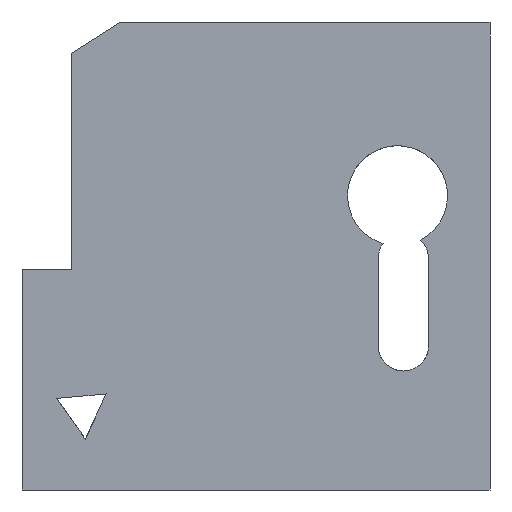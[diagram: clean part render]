
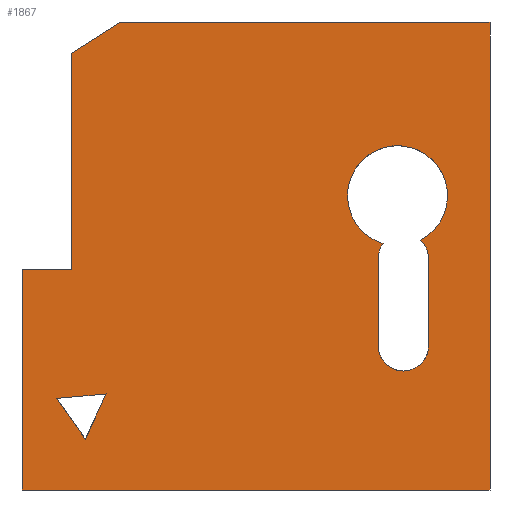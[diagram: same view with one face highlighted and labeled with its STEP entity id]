
A CAD part, front view. The second image highlights one B-rep face of the part: STEP entity #1867.
In plain terms, the highlighted planar face has unit normal (0, -1, 0).
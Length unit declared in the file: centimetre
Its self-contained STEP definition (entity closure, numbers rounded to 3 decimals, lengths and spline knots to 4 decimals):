
#5 = VECTOR ( 'NONE', #268, 100. ) ;
#8 = DIRECTION ( 'NONE',  ( 0., 0., 1. ) ) ;
#51 = EDGE_CURVE ( 'NONE', #1907, #249, #709, .T. ) ;
#56 = CARTESIAN_POINT ( 'NONE',  ( 0., 0., 470.2044 ) ) ;
#57 = DIRECTION ( 'NONE',  ( 0., 0., 1. ) ) ;
#62 = FACE_BOUND ( 'NONE', #2063, .T. ) ;
#63 = VERTEX_POINT ( 'NONE', #2137 ) ;
#66 = DIRECTION ( 'NONE',  ( 0., 0., 1. ) ) ;
#69 = DIRECTION ( 'NONE',  ( 0., 1., 0. ) ) ;
#81 = CARTESIAN_POINT ( 'NONE',  ( 760.9015, 0., 308.1098 ) ) ;
#93 = CARTESIAN_POINT ( 'NONE',  ( 105.0628, 0., 470.2044 ) ) ;
#104 = CARTESIAN_POINT ( 'NONE',  ( 1000., 0., 1000. ) ) ;
#108 = EDGE_CURVE ( 'NONE', #617, #1907, #387, .T. ) ;
#110 = CIRCLE ( 'NONE', #840, 53.9385 ) ;
#145 = LINE ( 'NONE', #844, #2144 ) ;
#148 = AXIS2_PLACEMENT_3D ( 'NONE', #1121, #69, #57 ) ;
#159 = DIRECTION ( 'NONE',  ( 1., 0., 0. ) ) ;
#165 = ORIENTED_EDGE ( 'NONE', *, *, #1364, .T. ) ;
#180 = LINE ( 'NONE', #704, #2088 ) ;
#188 = VECTOR ( 'NONE', #1649, 100. ) ;
#191 = CARTESIAN_POINT ( 'NONE',  ( 814.84, 0., 494.2567 ) ) ;
#212 = DIRECTION ( 'NONE',  ( 0.843, 0., 0.538 ) ) ;
#245 = DIRECTION ( 'NONE',  ( 0., -1., 0. ) ) ;
#249 = VERTEX_POINT ( 'NONE', #779 ) ;
#265 = LINE ( 'NONE', #285, #1067 ) ;
#268 = DIRECTION ( 'NONE',  ( 1., 0., 0. ) ) ;
#285 = CARTESIAN_POINT ( 'NONE',  ( 868.7785, 0., 494.2567 ) ) ;
#300 = ORIENTED_EDGE ( 'NONE', *, *, #1192, .F. ) ;
#303 = ORIENTED_EDGE ( 'NONE', *, *, #51, .F. ) ;
#322 = VERTEX_POINT ( 'NONE', #104 ) ;
#373 = LINE ( 'NONE', #535, #655 ) ;
#387 = LINE ( 'NONE', #1248, #773 ) ;
#407 = CARTESIAN_POINT ( 'NONE',  ( 105.0628, 0., 932.9597 ) ) ;
#419 = LINE ( 'NONE', #632, #1993 ) ;
#438 = EDGE_CURVE ( 'NONE', #322, #1198, #1323, .T. ) ;
#494 = EDGE_LOOP ( 'NONE', ( #1699, #580, #1912, #961, #165, #2112 ) ) ;
#499 = ORIENTED_EDGE ( 'NONE', *, *, #865, .T. ) ;
#522 = VERTEX_POINT ( 'NONE', #56 ) ;
#533 = EDGE_CURVE ( 'NONE', #2266, #1363, #2170, .T. ) ;
#535 = CARTESIAN_POINT ( 'NONE',  ( 74.0076, 0., 195.7149 ) ) ;
#552 = LINE ( 'NONE', #904, #188 ) ;
#580 = ORIENTED_EDGE ( 'NONE', *, *, #1437, .F. ) ;
#594 = FACE_OUTER_BOUND ( 'NONE', #1211, .T. ) ;
#596 = CARTESIAN_POINT ( 'NONE',  ( 760.9015, 0., 494.2567 ) ) ;
#599 = CARTESIAN_POINT ( 'NONE',  ( 868.7785, 0., 494.2567 ) ) ;
#617 = VERTEX_POINT ( 'NONE', #2181 ) ;
#624 = CARTESIAN_POINT ( 'NONE',  ( 179.9313, 0., 205.3036 ) ) ;
#632 = CARTESIAN_POINT ( 'NONE',  ( 0., 0., 0. ) ) ;
#655 = VECTOR ( 'NONE', #2141, 100. ) ;
#666 = CARTESIAN_POINT ( 'NONE',  ( 0., 0., 1000. ) ) ;
#694 = AXIS2_PLACEMENT_3D ( 'NONE', #1280, #1619, #66 ) ;
#701 = VECTOR ( 'NONE', #919, 100. ) ;
#704 = CARTESIAN_POINT ( 'NONE',  ( 0., 0., 865.9195 ) ) ;
#709 = LINE ( 'NONE', #1434, #701 ) ;
#748 = EDGE_CURVE ( 'NONE', #1431, #1044, #265, .T. ) ;
#757 = FACE_BOUND ( 'NONE', #494, .T. ) ;
#765 = LINE ( 'NONE', #93, #5 ) ;
#773 = VECTOR ( 'NONE', #1805, 100. ) ;
#779 = CARTESIAN_POINT ( 'NONE',  ( 74.0076, 0., 195.7149 ) ) ;
#798 = DIRECTION ( 'NONE',  ( 0., 0., -1. ) ) ;
#840 = AXIS2_PLACEMENT_3D ( 'NONE', #191, #1593, #8 ) ;
#844 = CARTESIAN_POINT ( 'NONE',  ( 0., 0., 1000. ) ) ;
#865 = EDGE_CURVE ( 'NONE', #522, #902, #1231, .T. ) ;
#877 = EDGE_CURVE ( 'NONE', #1363, #2034, #110, .T. ) ;
#902 = VERTEX_POINT ( 'NONE', #1570 ) ;
#904 = CARTESIAN_POINT ( 'NONE',  ( 105.0628, 0., 470.2044 ) ) ;
#913 = ORIENTED_EDGE ( 'NONE', *, *, #1080, .F. ) ;
#919 = DIRECTION ( 'NONE',  ( -0.996, 0., -0.09 ) ) ;
#921 = CIRCLE ( 'NONE', #1481, 106.8382 ) ;
#928 = VERTEX_POINT ( 'NONE', #1742 ) ;
#961 = ORIENTED_EDGE ( 'NONE', *, *, #748, .T. ) ;
#1008 = CARTESIAN_POINT ( 'NONE',  ( 771.5386, 0., 526.4179 ) ) ;
#1044 = VERTEX_POINT ( 'NONE', #1206 ) ;
#1067 = VECTOR ( 'NONE', #798, 100. ) ;
#1080 = EDGE_CURVE ( 'NONE', #249, #617, #373, .T. ) ;
#1085 = DIRECTION ( 'NONE',  ( 0., 0., 1. ) ) ;
#1106 = CARTESIAN_POINT ( 'NONE',  ( 802.4391, 0., 628.6899 ) ) ;
#1112 = ORIENTED_EDGE ( 'NONE', *, *, #1935, .T. ) ;
#1121 = CARTESIAN_POINT ( 'NONE',  ( 814.84, 0., 494.2567 ) ) ;
#1147 = CIRCLE ( 'NONE', #148, 53.9385 ) ;
#1181 = CIRCLE ( 'NONE', #694, 53.9385 ) ;
#1192 = EDGE_CURVE ( 'NONE', #1477, #1256, #552, .T. ) ;
#1198 = VERTEX_POINT ( 'NONE', #2146 ) ;
#1206 = CARTESIAN_POINT ( 'NONE',  ( 868.7785, 0., 308.1098 ) ) ;
#1211 = EDGE_LOOP ( 'NONE', ( #1396, #300, #1500, #499, #1112, #2283, #1887 ) ) ;
#1231 = LINE ( 'NONE', #666, #1332 ) ;
#1248 = CARTESIAN_POINT ( 'NONE',  ( 135.2735, 0., 108.7766 ) ) ;
#1256 = VERTEX_POINT ( 'NONE', #407 ) ;
#1280 = CARTESIAN_POINT ( 'NONE',  ( 814.84, 0., 308.1098 ) ) ;
#1320 = CARTESIAN_POINT ( 'NONE',  ( 105.0628, 0., 470.2044 ) ) ;
#1323 = LINE ( 'NONE', #1842, #2244 ) ;
#1332 = VECTOR ( 'NONE', #1394, 100. ) ;
#1342 = DIRECTION ( 'NONE',  ( 1., 0., 0. ) ) ;
#1363 = VERTEX_POINT ( 'NONE', #596 ) ;
#1364 = EDGE_CURVE ( 'NONE', #1044, #2266, #1181, .T. ) ;
#1394 = DIRECTION ( 'NONE',  ( 0., 0., -1. ) ) ;
#1396 = ORIENTED_EDGE ( 'NONE', *, *, #2208, .F. ) ;
#1416 = ORIENTED_EDGE ( 'NONE', *, *, #108, .F. ) ;
#1419 = CARTESIAN_POINT ( 'NONE',  ( 760.9015, 0., 308.1098 ) ) ;
#1431 = VERTEX_POINT ( 'NONE', #599 ) ;
#1434 = CARTESIAN_POINT ( 'NONE',  ( 179.9313, 0., 205.3036 ) ) ;
#1436 = EDGE_CURVE ( 'NONE', #928, #1431, #1147, .T. ) ;
#1437 = EDGE_CURVE ( 'NONE', #928, #2034, #921, .T. ) ;
#1447 = AXIS2_PLACEMENT_3D ( 'NONE', #2176, #2016, #1085 ) ;
#1476 = PLANE ( 'NONE',  #1447 ) ;
#1477 = VERTEX_POINT ( 'NONE', #1320 ) ;
#1481 = AXIS2_PLACEMENT_3D ( 'NONE', #1106, #245, #1827 ) ;
#1497 = EDGE_CURVE ( 'NONE', #522, #1477, #765, .T. ) ;
#1500 = ORIENTED_EDGE ( 'NONE', *, *, #1497, .F. ) ;
#1530 = DIRECTION ( 'NONE',  ( 0., 0., -1. ) ) ;
#1570 = CARTESIAN_POINT ( 'NONE',  ( 0., 0., 0. ) ) ;
#1593 = DIRECTION ( 'NONE',  ( 0., 1., 0. ) ) ;
#1619 = DIRECTION ( 'NONE',  ( 0., 1., 0. ) ) ;
#1641 = DIRECTION ( 'NONE',  ( 0., 0., 1. ) ) ;
#1649 = DIRECTION ( 'NONE',  ( 0., 0., 1. ) ) ;
#1695 = VECTOR ( 'NONE', #1641, 100. ) ;
#1699 = ORIENTED_EDGE ( 'NONE', *, *, #877, .T. ) ;
#1742 = CARTESIAN_POINT ( 'NONE',  ( 851.5273, 0., 533.7965 ) ) ;
#1805 = DIRECTION ( 'NONE',  ( 0.42, 0., 0.908 ) ) ;
#1827 = DIRECTION ( 'NONE',  ( 0., 0., -1. ) ) ;
#1842 = CARTESIAN_POINT ( 'NONE',  ( 1000., 0., 1000. ) ) ;
#1867 = ADVANCED_FACE ( 'NONE', ( #62, #757, #594 ), #1476, .F. ) ;
#1887 = ORIENTED_EDGE ( 'NONE', *, *, #2114, .F. ) ;
#1907 = VERTEX_POINT ( 'NONE', #624 ) ;
#1912 = ORIENTED_EDGE ( 'NONE', *, *, #1436, .T. ) ;
#1935 = EDGE_CURVE ( 'NONE', #902, #1198, #419, .T. ) ;
#1993 = VECTOR ( 'NONE', #1342, 100. ) ;
#2016 = DIRECTION ( 'NONE',  ( 0., 1., 0. ) ) ;
#2034 = VERTEX_POINT ( 'NONE', #1008 ) ;
#2063 = EDGE_LOOP ( 'NONE', ( #913, #303, #1416 ) ) ;
#2088 = VECTOR ( 'NONE', #212, 100. ) ;
#2112 = ORIENTED_EDGE ( 'NONE', *, *, #533, .T. ) ;
#2114 = EDGE_CURVE ( 'NONE', #63, #322, #145, .T. ) ;
#2137 = CARTESIAN_POINT ( 'NONE',  ( 210.1255, 0., 1000. ) ) ;
#2141 = DIRECTION ( 'NONE',  ( 0.576, 0., -0.817 ) ) ;
#2144 = VECTOR ( 'NONE', #159, 100. ) ;
#2146 = CARTESIAN_POINT ( 'NONE',  ( 1000., 0., 0. ) ) ;
#2170 = LINE ( 'NONE', #81, #1695 ) ;
#2176 = CARTESIAN_POINT ( 'NONE',  ( 0., 0., 1000. ) ) ;
#2181 = CARTESIAN_POINT ( 'NONE',  ( 135.2735, 0., 108.7766 ) ) ;
#2208 = EDGE_CURVE ( 'NONE', #1256, #63, #180, .T. ) ;
#2244 = VECTOR ( 'NONE', #1530, 100. ) ;
#2266 = VERTEX_POINT ( 'NONE', #1419 ) ;
#2283 = ORIENTED_EDGE ( 'NONE', *, *, #438, .F. ) ;
